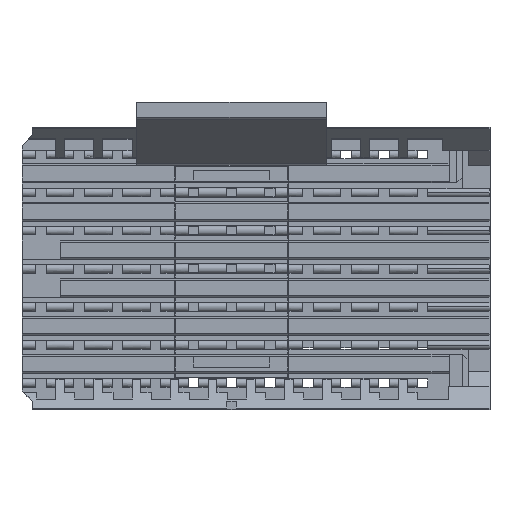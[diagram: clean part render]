
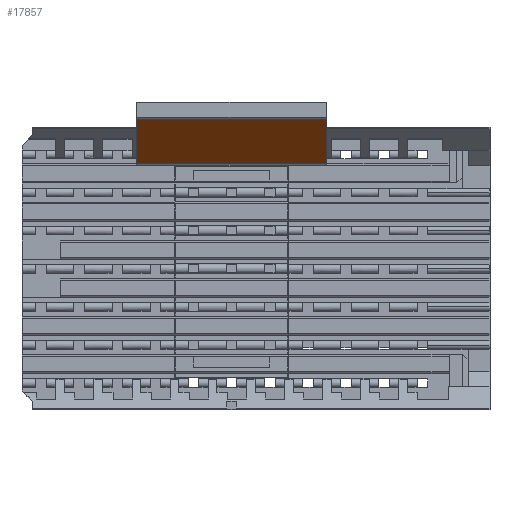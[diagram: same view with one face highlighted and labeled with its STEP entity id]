
A CAD part, top view. The second image highlights one B-rep face of the part: STEP entity #17857.
In plain terms, the highlighted planar face has unit normal (0, -0.775, 0.632) as drawn and (-0.632, 0, 0.775) by its records, which use the part's own axes.
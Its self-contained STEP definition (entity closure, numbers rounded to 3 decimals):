
#14846 = EDGE_CURVE ( 'NONE', #16959, #16971, #44220, .T. ) ;
#15031 = EDGE_LOOP ( 'NONE', ( #18886, #18887, #18888, #18889 ) ) ;
#16959 = VERTEX_POINT ( 'NONE', #44774 ) ;
#16971 = VERTEX_POINT ( 'NONE', #44787 ) ;
#17019 = VERTEX_POINT ( 'NONE', #44846 ) ;
#17022 = VERTEX_POINT ( 'NONE', #44850 ) ;
#17636 = EDGE_CURVE ( 'NONE', #17019, #17022, #44962, .T. ) ;
#17723 = EDGE_CURVE ( 'NONE', #16971, #17019, #45229, .T. ) ;
#17724 = EDGE_CURVE ( 'NONE', #17022, #16959, #45232, .T. ) ;
#17857 = ADVANCED_FACE ( 'NONE', ( #46335 ), #46329, .F. ) ;
#18886 = ORIENTED_EDGE ( 'NONE', *, *, #17636, .F. ) ;
#18887 = ORIENTED_EDGE ( 'NONE', *, *, #17723, .F. ) ;
#18888 = ORIENTED_EDGE ( 'NONE', *, *, #14846, .F. ) ;
#18889 = ORIENTED_EDGE ( 'NONE', *, *, #17724, .F. ) ;
#43150 = VECTOR ( 'NONE', #44230, 1000. ) ;
#43206 = VECTOR ( 'NONE', #44970, 1000. ) ;
#44220 = LINE ( 'NONE', #44221, #43150 ) ;
#44221 = CARTESIAN_POINT ( 'NONE',  ( -2050.334, 78.729, -2.387 ) ) ;
#44230 = DIRECTION ( 'NONE',  ( 0., 1., 0. ) ) ;
#44774 = CARTESIAN_POINT ( 'NONE',  ( -2050.334, 73.759, -2.387 ) ) ;
#44787 = CARTESIAN_POINT ( 'NONE',  ( -2050.334, 83.699, -2.387 ) ) ;
#44846 = CARTESIAN_POINT ( 'NONE',  ( -2047.498, 83.699, -0.075 ) ) ;
#44850 = CARTESIAN_POINT ( 'NONE',  ( -2047.498, 73.759, -0.075 ) ) ;
#44953 = CARTESIAN_POINT ( 'NONE',  ( -2047.498, 78.729, -0.075 ) ) ;
#44962 = LINE ( 'NONE', #44953, #43206 ) ;
#44970 = DIRECTION ( 'NONE',  ( 0., -1., 0. ) ) ;
#45229 = LINE ( 'NONE', #45230, #45508 ) ;
#45230 = CARTESIAN_POINT ( 'NONE',  ( -2050.334, 83.699, -2.387 ) ) ;
#45231 = DIRECTION ( 'NONE',  ( 0.775, 0., 0.632 ) ) ;
#45232 = LINE ( 'NONE', #45233, #45509 ) ;
#45233 = CARTESIAN_POINT ( 'NONE',  ( -2047.498, 73.759, -0.075 ) ) ;
#45234 = DIRECTION ( 'NONE',  ( -0.775, 0., -0.632 ) ) ;
#45508 = VECTOR ( 'NONE', #45231, 1000. ) ;
#45509 = VECTOR ( 'NONE', #45234, 1000. ) ;
#45654 = AXIS2_PLACEMENT_3D ( 'NONE', #46331, #46337, #46338 ) ;
#46329 = PLANE ( 'NONE',  #45654 ) ;
#46331 = CARTESIAN_POINT ( 'NONE',  ( -2047.498, 73.759, -0.075 ) ) ;
#46335 = FACE_OUTER_BOUND ( 'NONE', #15031, .T. ) ;
#46337 = DIRECTION ( 'NONE',  ( 0.632, 0., -0.775 ) ) ;
#46338 = DIRECTION ( 'NONE',  ( -0.775, 0., -0.632 ) ) ;
